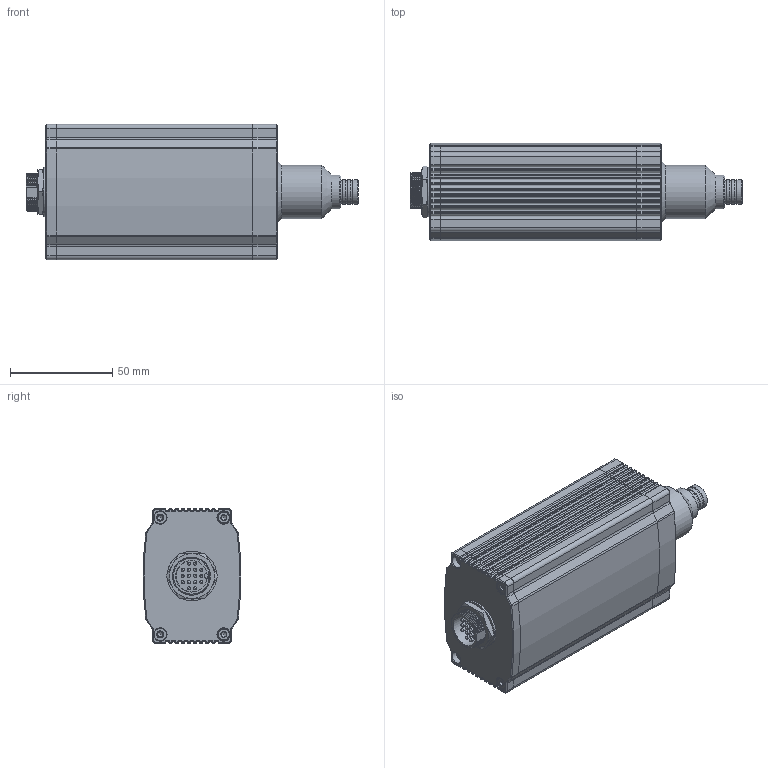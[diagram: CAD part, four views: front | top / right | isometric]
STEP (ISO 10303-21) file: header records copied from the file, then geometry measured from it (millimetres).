
FILE_DESCRIPTION(/* description */ (''),/* implementation_level */ '2;1');
FILE_NAME(/* name */ 'FI1010DC-HE (4.0).stp',/* time_stamp */ '2023-09-21T17:43:58+08:00',/* author */ (''),/* organization */ (''),/* preprocessor_version */ 'ST-DEVELOPER v16.7',/* originating_system */ 'SIEMENS PLM Software NX 12.0',/* authorisation */ '');
FILE_SCHEMA (('AUTOMOTIVE_DESIGN { 1 0 10303 214 3 1 1 1 }'));
Length unit declared in the file: millimetre
Products named in the file (1): Admi71E0876Fbqyh
Bounding box: 162.02 x 47.68 x 66 mm (x, y, z)
Volume: 209930.1 mm3; surface area: 90933.8 mm2
Topology: 28 solids, 30 shells, 1072 faces, 2703 edges, 1659 vertices
Faces by surface type: cylinder 407, plane 366, cone 221, bspline 34, sphere 24, torus 20
Full cylindrical faces by diameter (mm): 1.5 x24, 3 x8, 3.1 x2, 3.3 x2, 3.5 x8, 3.838 x2, 4 x1, 4.2 x2, 5.86 x8, 6 x8, 6.5 x1, 7 x2, 7.5 x2, 7.6 x2, 8 x1, 8.2 x1, 10 x1, 11 x3, 12 x4, 15 x1, 15.4 x1, 16 x1, 16.2 x1, 16.5 x1, 18 x2, 19 x1, 22.6 x1, 24.2 x1, 26 x1, 29.95 x1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
Entity records: 64362 total; most frequent: CARTESIAN_POINT 40352, DIRECTION 5031, ORIENTED_EDGE 4614, EDGE_CURVE 2311, AXIS2_PLACEMENT_3D 1969, VERTEX_POINT 1530, EDGE_LOOP 1325, LINE 1093
